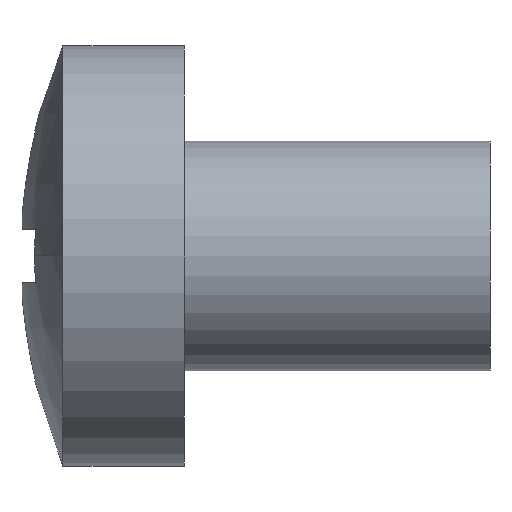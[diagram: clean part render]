
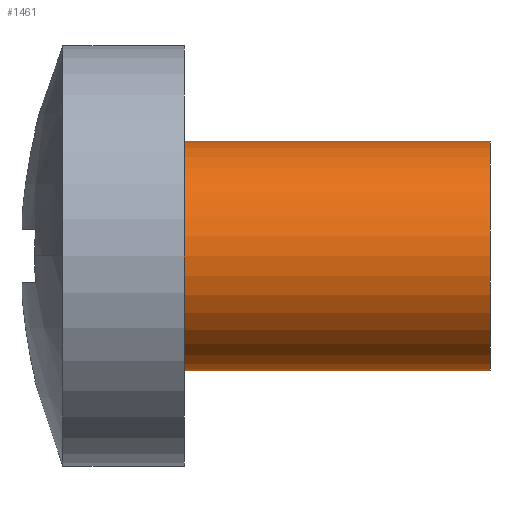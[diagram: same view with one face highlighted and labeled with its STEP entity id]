
A CAD part, front view. The second image highlights one B-rep face of the part: STEP entity #1461.
In plain terms, the highlighted cylindrical face has radius 1.5 mm (diameter 3 mm), a partial arc.
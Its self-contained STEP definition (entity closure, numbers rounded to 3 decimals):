
#124 = PLANE('',#125);
#125 = AXIS2_PLACEMENT_3D('',#126,#127,#128);
#126 = CARTESIAN_POINT('',(2.15,1.8,0.));
#127 = DIRECTION('',(1.,0.,-0.));
#128 = DIRECTION('',(-0.,0.,-1.));
#212 = VERTEX_POINT('',#213);
#213 = CARTESIAN_POINT('',(2.15,0.,-1.5));
#214 = VERTEX_POINT('',#215);
#215 = CARTESIAN_POINT('',(2.15,0.,1.5));
#223 = CYLINDRICAL_SURFACE('',#224,1.5);
#224 = AXIS2_PLACEMENT_3D('',#225,#226,#227);
#225 = CARTESIAN_POINT('',(4.516,0.,0.));
#226 = DIRECTION('',(1.,-0.,-0.));
#227 = DIRECTION('',(0.,0.,-1.));
#242 = EDGE_CURVE('',#214,#243,#245,.T.);
#243 = VERTEX_POINT('',#244);
#244 = CARTESIAN_POINT('',(6.15,0.,1.5));
#245 = SURFACE_CURVE('',#246,(#250,#257),.PCURVE_S1.);
#246 = LINE('',#247,#248);
#247 = CARTESIAN_POINT('',(4.516,0.,1.5));
#248 = VECTOR('',#249,1.);
#249 = DIRECTION('',(1.,-0.,-0.));
#250 = PCURVE('',#223,#251);
#251 = DEFINITIONAL_REPRESENTATION('',(#252),#256);
#252 = LINE('',#253,#254);
#253 = CARTESIAN_POINT('',(3.142,0.));
#254 = VECTOR('',#255,1.);
#255 = DIRECTION('',(0.,1.));
#256 = ( GEOMETRIC_REPRESENTATION_CONTEXT(2) 
PARAMETRIC_REPRESENTATION_CONTEXT() REPRESENTATION_CONTEXT('2D SPACE',''
  ) );
#257 = PCURVE('',#258,#263);
#258 = CYLINDRICAL_SURFACE('',#259,1.5);
#259 = AXIS2_PLACEMENT_3D('',#260,#261,#262);
#260 = CARTESIAN_POINT('',(4.516,0.,0.));
#261 = DIRECTION('',(1.,-0.,-0.));
#262 = DIRECTION('',(0.,0.,-1.));
#263 = DEFINITIONAL_REPRESENTATION('',(#264),#268);
#264 = LINE('',#265,#266);
#265 = CARTESIAN_POINT('',(3.142,0.));
#266 = VECTOR('',#267,1.);
#267 = DIRECTION('',(0.,1.));
#268 = ( GEOMETRIC_REPRESENTATION_CONTEXT(2) 
PARAMETRIC_REPRESENTATION_CONTEXT() REPRESENTATION_CONTEXT('2D SPACE',''
  ) );
#271 = VERTEX_POINT('',#272);
#272 = CARTESIAN_POINT('',(6.15,0.,-1.5));
#287 = PLANE('',#288);
#288 = AXIS2_PLACEMENT_3D('',#289,#290,#291);
#289 = CARTESIAN_POINT('',(6.15,1.5,0.));
#290 = DIRECTION('',(1.,0.,-0.));
#291 = DIRECTION('',(-0.,0.,-1.));
#299 = EDGE_CURVE('',#212,#271,#300,.T.);
#300 = SURFACE_CURVE('',#301,(#305,#312),.PCURVE_S1.);
#301 = LINE('',#302,#303);
#302 = CARTESIAN_POINT('',(4.516,0.,-1.5));
#303 = VECTOR('',#304,1.);
#304 = DIRECTION('',(1.,-0.,-0.));
#305 = PCURVE('',#223,#306);
#306 = DEFINITIONAL_REPRESENTATION('',(#307),#311);
#307 = LINE('',#308,#309);
#308 = CARTESIAN_POINT('',(0.,0.));
#309 = VECTOR('',#310,1.);
#310 = DIRECTION('',(0.,1.));
#311 = ( GEOMETRIC_REPRESENTATION_CONTEXT(2) 
PARAMETRIC_REPRESENTATION_CONTEXT() REPRESENTATION_CONTEXT('2D SPACE',''
  ) );
#312 = PCURVE('',#258,#313);
#313 = DEFINITIONAL_REPRESENTATION('',(#314),#318);
#314 = LINE('',#315,#316);
#315 = CARTESIAN_POINT('',(6.283,0.));
#316 = VECTOR('',#317,1.);
#317 = DIRECTION('',(0.,1.));
#318 = ( GEOMETRIC_REPRESENTATION_CONTEXT(2) 
PARAMETRIC_REPRESENTATION_CONTEXT() REPRESENTATION_CONTEXT('2D SPACE',''
  ) );
#1440 = EDGE_CURVE('',#243,#271,#1441,.T.);
#1441 = SURFACE_CURVE('',#1442,(#1447,#1454),.PCURVE_S1.);
#1442 = CIRCLE('',#1443,1.5);
#1443 = AXIS2_PLACEMENT_3D('',#1444,#1445,#1446);
#1444 = CARTESIAN_POINT('',(6.15,0.,0.));
#1445 = DIRECTION('',(1.,-0.,0.));
#1446 = DIRECTION('',(0.,0.,-1.));
#1447 = PCURVE('',#287,#1448);
#1448 = DEFINITIONAL_REPRESENTATION('',(#1449),#1453);
#1449 = CIRCLE('',#1450,1.5);
#1450 = AXIS2_PLACEMENT_2D('',#1451,#1452);
#1451 = CARTESIAN_POINT('',(0.,-1.5));
#1452 = DIRECTION('',(1.,0.));
#1453 = ( GEOMETRIC_REPRESENTATION_CONTEXT(2) 
PARAMETRIC_REPRESENTATION_CONTEXT() REPRESENTATION_CONTEXT('2D SPACE',''
  ) );
#1454 = PCURVE('',#258,#1455);
#1455 = DEFINITIONAL_REPRESENTATION('',(#1456),#1460);
#1456 = LINE('',#1457,#1458);
#1457 = CARTESIAN_POINT('',(0.,1.634));
#1458 = VECTOR('',#1459,1.);
#1459 = DIRECTION('',(1.,0.));
#1460 = ( GEOMETRIC_REPRESENTATION_CONTEXT(2) 
PARAMETRIC_REPRESENTATION_CONTEXT() REPRESENTATION_CONTEXT('2D SPACE',''
  ) );
#1461 = ADVANCED_FACE('',(#1462),#258,.T.);
#1462 = FACE_BOUND('',#1463,.T.);
#1463 = EDGE_LOOP('',(#1464,#1465,#1487,#1488));
#1464 = ORIENTED_EDGE('',*,*,#242,.F.);
#1465 = ORIENTED_EDGE('',*,*,#1466,.T.);
#1466 = EDGE_CURVE('',#214,#212,#1467,.T.);
#1467 = SURFACE_CURVE('',#1468,(#1473,#1480),.PCURVE_S1.);
#1468 = CIRCLE('',#1469,1.5);
#1469 = AXIS2_PLACEMENT_3D('',#1470,#1471,#1472);
#1470 = CARTESIAN_POINT('',(2.15,0.,0.));
#1471 = DIRECTION('',(1.,-0.,0.));
#1472 = DIRECTION('',(0.,0.,-1.));
#1473 = PCURVE('',#258,#1474);
#1474 = DEFINITIONAL_REPRESENTATION('',(#1475),#1479);
#1475 = LINE('',#1476,#1477);
#1476 = CARTESIAN_POINT('',(0.,-2.366));
#1477 = VECTOR('',#1478,1.);
#1478 = DIRECTION('',(1.,0.));
#1479 = ( GEOMETRIC_REPRESENTATION_CONTEXT(2) 
PARAMETRIC_REPRESENTATION_CONTEXT() REPRESENTATION_CONTEXT('2D SPACE',''
  ) );
#1480 = PCURVE('',#124,#1481);
#1481 = DEFINITIONAL_REPRESENTATION('',(#1482),#1486);
#1482 = CIRCLE('',#1483,1.5);
#1483 = AXIS2_PLACEMENT_2D('',#1484,#1485);
#1484 = CARTESIAN_POINT('',(0.,-1.8));
#1485 = DIRECTION('',(1.,0.));
#1486 = ( GEOMETRIC_REPRESENTATION_CONTEXT(2) 
PARAMETRIC_REPRESENTATION_CONTEXT() REPRESENTATION_CONTEXT('2D SPACE',''
  ) );
#1487 = ORIENTED_EDGE('',*,*,#299,.T.);
#1488 = ORIENTED_EDGE('',*,*,#1440,.F.);
